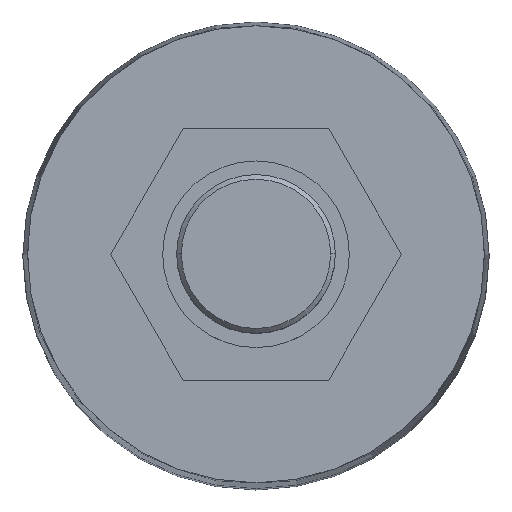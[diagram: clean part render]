
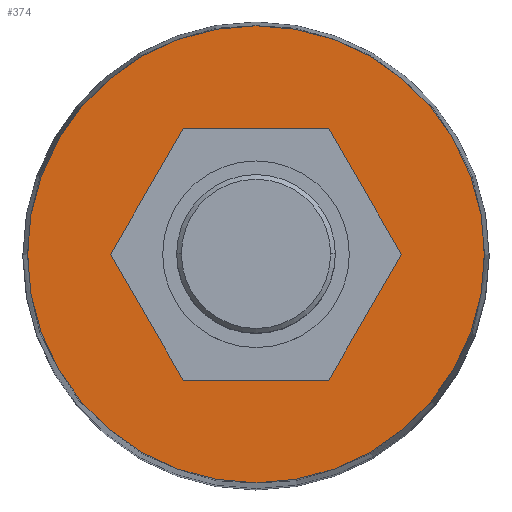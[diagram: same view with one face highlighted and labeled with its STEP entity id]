
A CAD part, top view. The second image highlights one B-rep face of the part: STEP entity #374.
In plain terms, the highlighted planar face has unit normal (0, 0, 1).
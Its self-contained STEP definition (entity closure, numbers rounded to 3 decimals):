
#26 = VERTEX_POINT ( 'NONE', #390 ) ;
#31 = EDGE_CURVE ( 'NONE', #26, #45, #360, .T. ) ;
#45 = VERTEX_POINT ( 'NONE', #482 ) ;
#315 = ORIENTED_EDGE ( 'NONE', *, *, #373, .F. ) ;
#337 = VERTEX_POINT ( 'NONE', #977 ) ;
#338 = VERTEX_POINT ( 'NONE', #974 ) ;
#339 = EDGE_LOOP ( 'NONE', ( #315, #375, #424, #431, #468, #433 ) ) ;
#340 = EDGE_CURVE ( 'NONE', #338, #337, #860, .T. ) ;
#359 = AXIS2_PLACEMENT_3D ( 'NONE', #495, #494, #493 ) ;
#360 = CIRCLE ( 'NONE', #359, 24.5 ) ;
#369 = VERTEX_POINT ( 'NONE', #921 ) ;
#370 = VERTEX_POINT ( 'NONE', #920 ) ;
#373 = EDGE_CURVE ( 'NONE', #337, #369, #846, .T. ) ;
#374 = ADVANCED_FACE ( 'NONE', ( #918, #848 ), #842, .T. ) ;
#375 = ORIENTED_EDGE ( 'NONE', *, *, #340, .F. ) ;
#376 = VERTEX_POINT ( 'NONE', #919 ) ;
#390 = CARTESIAN_POINT ( 'NONE',  ( 24.5, 0., 104.5 ) ) ;
#424 = ORIENTED_EDGE ( 'NONE', *, *, #425, .F. ) ;
#425 = EDGE_CURVE ( 'NONE', #426, #338, #817, .T. ) ;
#426 = VERTEX_POINT ( 'NONE', #827 ) ;
#428 = EDGE_CURVE ( 'NONE', #376, #370, #813, .T. ) ;
#429 = EDGE_CURVE ( 'NONE', #370, #426, #809, .T. ) ;
#431 = ORIENTED_EDGE ( 'NONE', *, *, #429, .F. ) ;
#433 = ORIENTED_EDGE ( 'NONE', *, *, #469, .F. ) ;
#453 = EDGE_CURVE ( 'NONE', #45, #26, #1031, .T. ) ;
#454 = EDGE_LOOP ( 'NONE', ( #455, #457 ) ) ;
#455 = ORIENTED_EDGE ( 'NONE', *, *, #453, .T. ) ;
#457 = ORIENTED_EDGE ( 'NONE', *, *, #31, .T. ) ;
#468 = ORIENTED_EDGE ( 'NONE', *, *, #428, .F. ) ;
#469 = EDGE_CURVE ( 'NONE', #369, #376, #1053, .T. ) ;
#482 = CARTESIAN_POINT ( 'NONE',  ( -24.5, 0., 104.5 ) ) ;
#493 = DIRECTION ( 'NONE',  ( 1., 0., 0. ) ) ;
#494 = DIRECTION ( 'NONE',  ( 0., 0., 1. ) ) ;
#495 = CARTESIAN_POINT ( 'NONE',  ( 0., 0., 104.5 ) ) ;
#807 = DIRECTION ( 'NONE',  ( 1., 0., 0. ) ) ;
#808 = VECTOR ( 'NONE', #807, 1000. ) ;
#809 = LINE ( 'NONE', #819, #808 ) ;
#811 = DIRECTION ( 'NONE',  ( 0.5, -0.866, 0. ) ) ;
#812 = VECTOR ( 'NONE', #811, 1000. ) ;
#813 = LINE ( 'NONE', #818, #812 ) ;
#815 = DIRECTION ( 'NONE',  ( 0.5, 0.866, 0. ) ) ;
#816 = VECTOR ( 'NONE', #815, 1000. ) ;
#817 = LINE ( 'NONE', #837, #816 ) ;
#818 = CARTESIAN_POINT ( 'NONE',  ( -15.588, 0., 104.5 ) ) ;
#819 = CARTESIAN_POINT ( 'NONE',  ( -7.794, -13.5, 104.5 ) ) ;
#827 = CARTESIAN_POINT ( 'NONE',  ( 7.794, -13.5, 104.5 ) ) ;
#837 = CARTESIAN_POINT ( 'NONE',  ( 7.794, -13.5, 104.5 ) ) ;
#838 = DIRECTION ( 'NONE',  ( 1., 0., 0. ) ) ;
#839 = DIRECTION ( 'NONE',  ( 0., 0., 1. ) ) ;
#842 = PLANE ( 'NONE',  #943 ) ;
#843 = DIRECTION ( 'NONE',  ( -1., 0., 0. ) ) ;
#844 = VECTOR ( 'NONE', #843, 1000. ) ;
#845 = CARTESIAN_POINT ( 'NONE',  ( 7.794, 13.5, 104.5 ) ) ;
#846 = LINE ( 'NONE', #845, #844 ) ;
#848 = FACE_OUTER_BOUND ( 'NONE', #454, .T. ) ;
#852 = CARTESIAN_POINT ( 'NONE',  ( 0., 0., 104.5 ) ) ;
#860 = LINE ( 'NONE', #971, #970 ) ;
#918 = FACE_BOUND ( 'NONE', #339, .T. ) ;
#919 = CARTESIAN_POINT ( 'NONE',  ( -15.588, 0., 104.5 ) ) ;
#920 = CARTESIAN_POINT ( 'NONE',  ( -7.794, -13.5, 104.5 ) ) ;
#921 = CARTESIAN_POINT ( 'NONE',  ( -7.794, 13.5, 104.5 ) ) ;
#943 = AXIS2_PLACEMENT_3D ( 'NONE', #852, #839, #838 ) ;
#969 = DIRECTION ( 'NONE',  ( -0.5, 0.866, 0. ) ) ;
#970 = VECTOR ( 'NONE', #969, 1000. ) ;
#971 = CARTESIAN_POINT ( 'NONE',  ( 15.588, 0., 104.5 ) ) ;
#974 = CARTESIAN_POINT ( 'NONE',  ( 15.588, 0., 104.5 ) ) ;
#977 = CARTESIAN_POINT ( 'NONE',  ( 7.794, 13.5, 104.5 ) ) ;
#1013 = DIRECTION ( 'NONE',  ( 1., 0., 0. ) ) ;
#1014 = DIRECTION ( 'NONE',  ( 0., 0., 1. ) ) ;
#1015 = CARTESIAN_POINT ( 'NONE',  ( 0., 0., 104.5 ) ) ;
#1016 = AXIS2_PLACEMENT_3D ( 'NONE', #1015, #1014, #1013 ) ;
#1031 = CIRCLE ( 'NONE', #1016, 24.5 ) ;
#1045 = DIRECTION ( 'NONE',  ( -0.5, -0.866, 0. ) ) ;
#1046 = VECTOR ( 'NONE', #1045, 1000. ) ;
#1047 = CARTESIAN_POINT ( 'NONE',  ( -7.794, 13.5, 104.5 ) ) ;
#1053 = LINE ( 'NONE', #1047, #1046 ) ;
